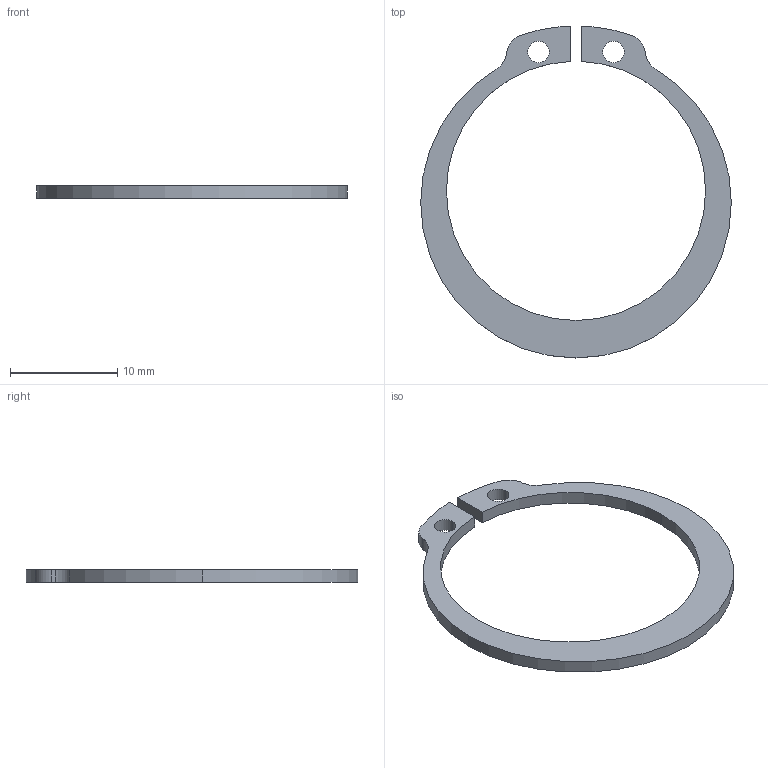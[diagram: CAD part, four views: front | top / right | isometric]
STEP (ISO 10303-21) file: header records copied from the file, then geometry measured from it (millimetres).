
FILE_DESCRIPTION(('CATIA V5 STEP Exchange'),'2;1');
FILE_NAME('C:\Users\Utente\Desktop\IO LAVORO\3D X SITO CF\X SITO\PLASTICA\553S\553S-R26.stp','2021-04-21T09:22:20+00:00',('none'),('none'),'CATIA Version 5 Release 20 GA (IN-10)','CATIA V5 STEP AP203','none');
FILE_SCHEMA(('CONFIG_CONTROL_DESIGN'));
Length unit declared in the file: millimetre
Products named in the file (1): 553S-R26
Bounding box: 29 x 30.99 x 1.2 mm (x, y, z)
Volume: 260.6 mm3; surface area: 661.2 mm2
Topology: 1 solids, 1 shells, 22 faces, 60 edges, 40 vertices
Faces by surface type: cylinder 16, plane 6
Entity records: 724 total; most frequent: CARTESIAN_POINT 121, ORIENTED_EDGE 120, DIRECTION 100, EDGE_CURVE 60, AXIS2_PLACEMENT_3D 53, VERTEX_POINT 40, CIRCLE 32, VECTOR 28
